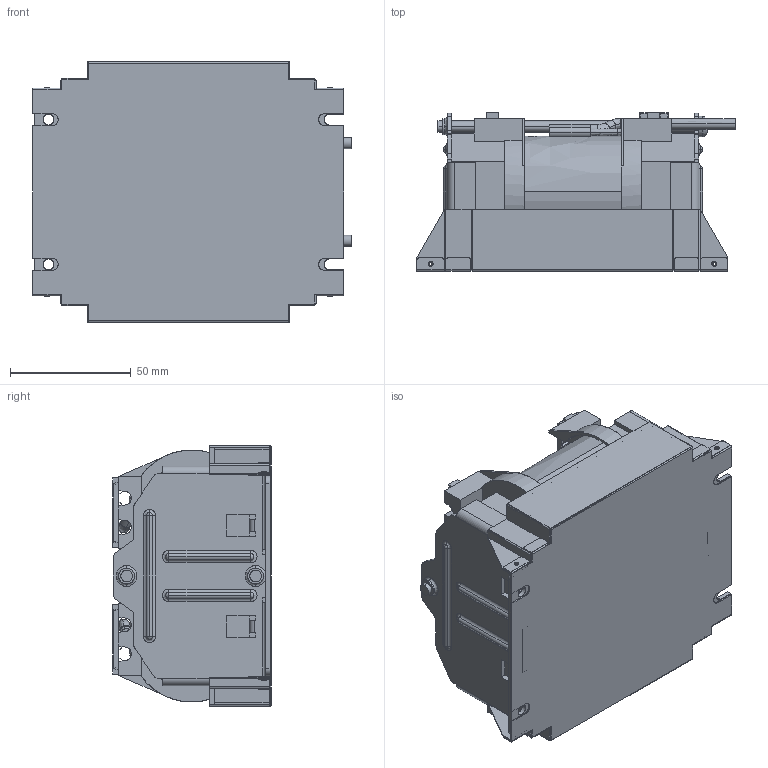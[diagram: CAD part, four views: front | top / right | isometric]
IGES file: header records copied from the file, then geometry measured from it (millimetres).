
Start section: SolidWorks IGES file using analytic representation for surfaces
Global section: file name: 34H\\10.106.230.1\R&D File\05_COMP\02_Mechanical\10_Others\PV_RT 81\网络用3D模型\半灌封模型\5KW_G_DCL\SP11225B-GM00SS20R(M-5KW_DCL-G).IGS; native system: SolidWorks 2009; preprocessor: SolidWorks 2009; author: Administrator; date: 120508.170309; units: millimetre
Bounding box: 132 x 65.75 x 108 mm (x, y, z)
Surface area: 182041.7 mm2 (no closed solid volume)
Topology: 0 solids, 0 shells, 1127 faces, 9060 edges, 9037 vertices
Faces by surface type: bspline 747, revolution 380
